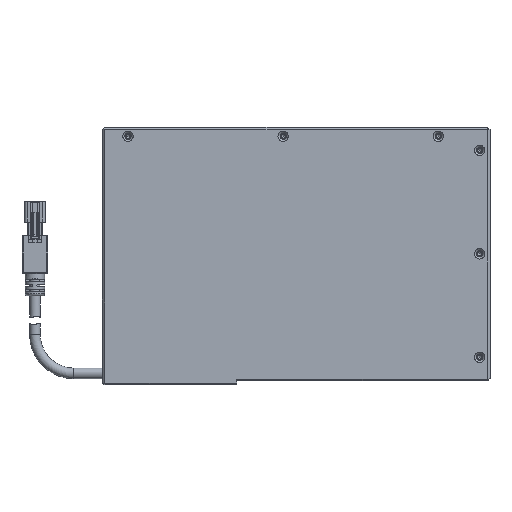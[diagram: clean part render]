
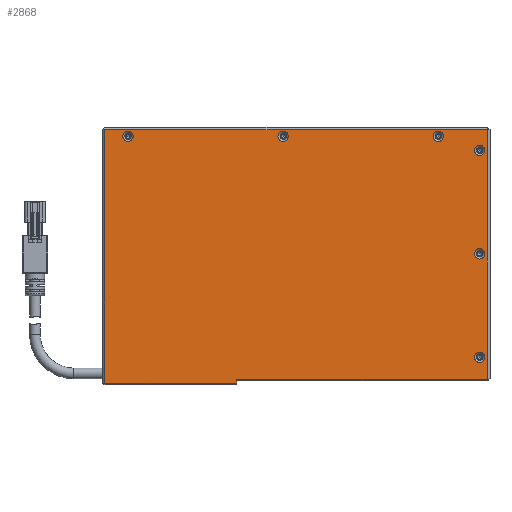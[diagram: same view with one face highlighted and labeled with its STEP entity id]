
A CAD part, top view. The second image highlights one B-rep face of the part: STEP entity #2868.
In plain terms, the highlighted planar face has unit normal (0, 0, 1).
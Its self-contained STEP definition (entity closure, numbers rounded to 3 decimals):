
#63 = DIRECTION ( 'NONE',  ( 0., 1., 0. ) ) ;
#86 = FACE_BOUND ( 'NONE', #16754, .T. ) ;
#152 = ORIENTED_EDGE ( 'NONE', *, *, #17267, .T. ) ;
#230 = CARTESIAN_POINT ( 'NONE',  ( -86.128, 76.778, 98. ) ) ;
#593 = CIRCLE ( 'NONE', #13929, 2. ) ;
#836 = AXIS2_PLACEMENT_3D ( 'NONE', #4418, #16956, #17105 ) ;
#920 = ORIENTED_EDGE ( 'NONE', *, *, #16625, .T. ) ;
#1028 = EDGE_CURVE ( 'NONE', #12108, #14507, #12125, .T. ) ;
#1081 = AXIS2_PLACEMENT_3D ( 'NONE', #16216, #6867, #6930 ) ;
#1364 = CARTESIAN_POINT ( 'NONE',  ( -93.128, 79.278, 98. ) ) ;
#1388 = CARTESIAN_POINT ( 'NONE',  ( 49.872, 31.278, 98. ) ) ;
#1656 = CARTESIAN_POINT ( 'NONE',  ( -26.128, 76.778, 98. ) ) ;
#1797 = VECTOR ( 'NONE', #1862, 1000. ) ;
#1820 = DIRECTION ( 'NONE',  ( 0., -1., 0. ) ) ;
#1862 = DIRECTION ( 'NONE',  ( -1., 0., 0. ) ) ;
#1892 = CARTESIAN_POINT ( 'NONE',  ( -93.128, -17.722, 98. ) ) ;
#2322 = CARTESIAN_POINT ( 'NONE',  ( 35.872, 76.778, 98. ) ) ;
#2437 = EDGE_CURVE ( 'NONE', #17203, #12108, #15506, .T. ) ;
#2481 = VECTOR ( 'NONE', #4843, 1000. ) ;
#2573 = EDGE_LOOP ( 'NONE', ( #9589 ) ) ;
#2868 = ADVANCED_FACE ( 'NONE', ( #3002, #8926, #10388, #86, #14555, #5456, #14304 ), #3262, .F. ) ;
#3002 = FACE_OUTER_BOUND ( 'NONE', #15232, .T. ) ;
#3262 = PLANE ( 'NONE',  #17346 ) ;
#3538 = EDGE_CURVE ( 'NONE', #17203, #20144, #19602, .T. ) ;
#4238 = DIRECTION ( 'NONE',  ( 1., 0., 0. ) ) ;
#4418 = CARTESIAN_POINT ( 'NONE',  ( 51.872, -8.722, 98. ) ) ;
#4609 = CARTESIAN_POINT ( 'NONE',  ( 51.872, 71.278, 98. ) ) ;
#4843 = DIRECTION ( 'NONE',  ( 0., -1., 0. ) ) ;
#4924 = DIRECTION ( 'NONE',  ( 0., 0., -1. ) ) ;
#5273 = VERTEX_POINT ( 'NONE', #1388 ) ;
#5456 = FACE_BOUND ( 'NONE', #2573, .T. ) ;
#5627 = CARTESIAN_POINT ( 'NONE',  ( -94.128, -18.722, 98. ) ) ;
#5961 = ORIENTED_EDGE ( 'NONE', *, *, #15625, .T. ) ;
#6135 = ORIENTED_EDGE ( 'NONE', *, *, #13966, .F. ) ;
#6309 = CARTESIAN_POINT ( 'NONE',  ( 33.872, 76.778, 98. ) ) ;
#6377 = ORIENTED_EDGE ( 'NONE', *, *, #10988, .F. ) ;
#6559 = ORIENTED_EDGE ( 'NONE', *, *, #2437, .T. ) ;
#6609 = VERTEX_POINT ( 'NONE', #13027 ) ;
#6771 = EDGE_CURVE ( 'NONE', #5273, #5273, #12082, .T. ) ;
#6867 = DIRECTION ( 'NONE',  ( 0., 0., -1. ) ) ;
#6930 = DIRECTION ( 'NONE',  ( -1., 0., 0. ) ) ;
#6934 = LINE ( 'NONE', #11235, #2481 ) ;
#7024 = CIRCLE ( 'NONE', #15969, 2. ) ;
#7065 = ORIENTED_EDGE ( 'NONE', *, *, #9660, .T. ) ;
#7304 = LINE ( 'NONE', #8676, #12963 ) ;
#7742 = DIRECTION ( 'NONE',  ( 0., 0., -1. ) ) ;
#8609 = DIRECTION ( 'NONE',  ( 0., 0., -1. ) ) ;
#8676 = CARTESIAN_POINT ( 'NONE',  ( 54.872, 80.278, 98. ) ) ;
#8926 = FACE_BOUND ( 'NONE', #17682, .T. ) ;
#8943 = VERTEX_POINT ( 'NONE', #230 ) ;
#8981 = AXIS2_PLACEMENT_3D ( 'NONE', #13817, #7742, #9271 ) ;
#9223 = ORIENTED_EDGE ( 'NONE', *, *, #1028, .T. ) ;
#9271 = DIRECTION ( 'NONE',  ( -1., 0., 0. ) ) ;
#9589 = ORIENTED_EDGE ( 'NONE', *, *, #16623, .T. ) ;
#9660 = EDGE_CURVE ( 'NONE', #11397, #11397, #7024, .T. ) ;
#9945 = ORIENTED_EDGE ( 'NONE', *, *, #15925, .F. ) ;
#10038 = DIRECTION ( 'NONE',  ( 0., 0., -1. ) ) ;
#10388 = FACE_BOUND ( 'NONE', #15031, .T. ) ;
#10557 = AXIS2_PLACEMENT_3D ( 'NONE', #14822, #8609, #19505 ) ;
#10832 = VECTOR ( 'NONE', #17364, 1000. ) ;
#10870 = VERTEX_POINT ( 'NONE', #1656 ) ;
#10988 = EDGE_CURVE ( 'NONE', #20144, #6609, #7304, .T. ) ;
#11117 = LINE ( 'NONE', #14462, #1797 ) ;
#11235 = CARTESIAN_POINT ( 'NONE',  ( -42.128, -17.722, 98. ) ) ;
#11314 = CIRCLE ( 'NONE', #836, 2. ) ;
#11371 = VECTOR ( 'NONE', #1820, 1000. ) ;
#11397 = VERTEX_POINT ( 'NONE', #15412 ) ;
#11595 = DIRECTION ( 'NONE',  ( -1., 0., 0. ) ) ;
#12013 = CARTESIAN_POINT ( 'NONE',  ( -42.128, -18.722, 98. ) ) ;
#12082 = CIRCLE ( 'NONE', #1081, 2. ) ;
#12108 = VERTEX_POINT ( 'NONE', #13583 ) ;
#12125 = LINE ( 'NONE', #5627, #18248 ) ;
#12560 = ORIENTED_EDGE ( 'NONE', *, *, #6771, .T. ) ;
#12670 = CARTESIAN_POINT ( 'NONE',  ( -94.128, -17.722, 98. ) ) ;
#12963 = VECTOR ( 'NONE', #13449, 1000. ) ;
#13027 = CARTESIAN_POINT ( 'NONE',  ( 54.872, -17.222, 98. ) ) ;
#13109 = VERTEX_POINT ( 'NONE', #6309 ) ;
#13119 = VERTEX_POINT ( 'NONE', #13687 ) ;
#13133 = CARTESIAN_POINT ( 'NONE',  ( 54.872, 79.278, 98. ) ) ;
#13449 = DIRECTION ( 'NONE',  ( 0., -1., 0. ) ) ;
#13583 = CARTESIAN_POINT ( 'NONE',  ( -93.128, -18.722, 98. ) ) ;
#13687 = CARTESIAN_POINT ( 'NONE',  ( -42.128, -17.222, 98. ) ) ;
#13817 = CARTESIAN_POINT ( 'NONE',  ( -84.128, 76.778, 98. ) ) ;
#13929 = AXIS2_PLACEMENT_3D ( 'NONE', #2322, #10038, #11595 ) ;
#13933 = DIRECTION ( 'NONE',  ( 0., 0., -1. ) ) ;
#13966 = EDGE_CURVE ( 'NONE', #6609, #13119, #11117, .T. ) ;
#14228 = DIRECTION ( 'NONE',  ( -1., 0., 0. ) ) ;
#14304 = FACE_BOUND ( 'NONE', #16891, .T. ) ;
#14360 = CARTESIAN_POINT ( 'NONE',  ( 55.872, 79.278, 98. ) ) ;
#14462 = CARTESIAN_POINT ( 'NONE',  ( 55.872, -17.222, 98. ) ) ;
#14507 = VERTEX_POINT ( 'NONE', #12013 ) ;
#14555 = FACE_BOUND ( 'NONE', #15685, .T. ) ;
#14822 = CARTESIAN_POINT ( 'NONE',  ( -24.128, 76.778, 98. ) ) ;
#14967 = CIRCLE ( 'NONE', #8981, 2. ) ;
#15031 = EDGE_LOOP ( 'NONE', ( #152 ) ) ;
#15232 = EDGE_LOOP ( 'NONE', ( #6559, #9223, #9945, #6135, #6377, #18408 ) ) ;
#15412 = CARTESIAN_POINT ( 'NONE',  ( 49.872, 71.278, 98. ) ) ;
#15506 = LINE ( 'NONE', #1892, #11371 ) ;
#15625 = EDGE_CURVE ( 'NONE', #13109, #13109, #593, .T. ) ;
#15685 = EDGE_LOOP ( 'NONE', ( #7065 ) ) ;
#15925 = EDGE_CURVE ( 'NONE', #13119, #14507, #6934, .T. ) ;
#15969 = AXIS2_PLACEMENT_3D ( 'NONE', #4609, #13933, #14228 ) ;
#16216 = CARTESIAN_POINT ( 'NONE',  ( 51.872, 31.278, 98. ) ) ;
#16623 = EDGE_CURVE ( 'NONE', #18213, #18213, #11314, .T. ) ;
#16625 = EDGE_CURVE ( 'NONE', #8943, #8943, #14967, .T. ) ;
#16754 = EDGE_LOOP ( 'NONE', ( #920 ) ) ;
#16891 = EDGE_LOOP ( 'NONE', ( #12560 ) ) ;
#16956 = DIRECTION ( 'NONE',  ( 0., 0., -1. ) ) ;
#17105 = DIRECTION ( 'NONE',  ( -1., 0., 0. ) ) ;
#17203 = VERTEX_POINT ( 'NONE', #1364 ) ;
#17267 = EDGE_CURVE ( 'NONE', #10870, #10870, #18347, .T. ) ;
#17346 = AXIS2_PLACEMENT_3D ( 'NONE', #12670, #4924, #63 ) ;
#17364 = DIRECTION ( 'NONE',  ( 1., 0., 0. ) ) ;
#17682 = EDGE_LOOP ( 'NONE', ( #5961 ) ) ;
#18213 = VERTEX_POINT ( 'NONE', #18763 ) ;
#18248 = VECTOR ( 'NONE', #4238, 1000. ) ;
#18347 = CIRCLE ( 'NONE', #10557, 2. ) ;
#18408 = ORIENTED_EDGE ( 'NONE', *, *, #3538, .F. ) ;
#18763 = CARTESIAN_POINT ( 'NONE',  ( 49.872, -8.722, 98. ) ) ;
#19505 = DIRECTION ( 'NONE',  ( -1., 0., 0. ) ) ;
#19602 = LINE ( 'NONE', #14360, #10832 ) ;
#20144 = VERTEX_POINT ( 'NONE', #13133 ) ;
